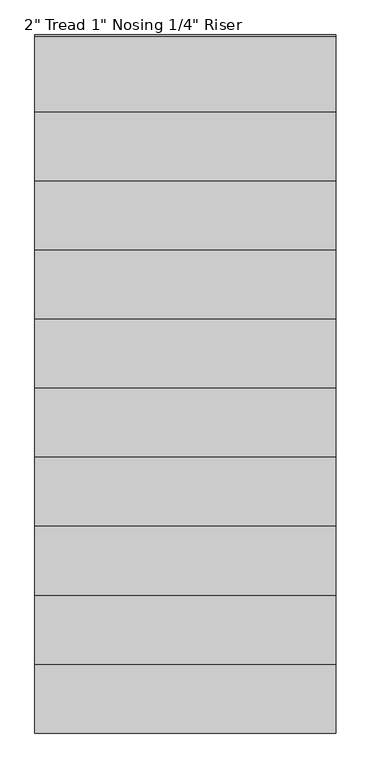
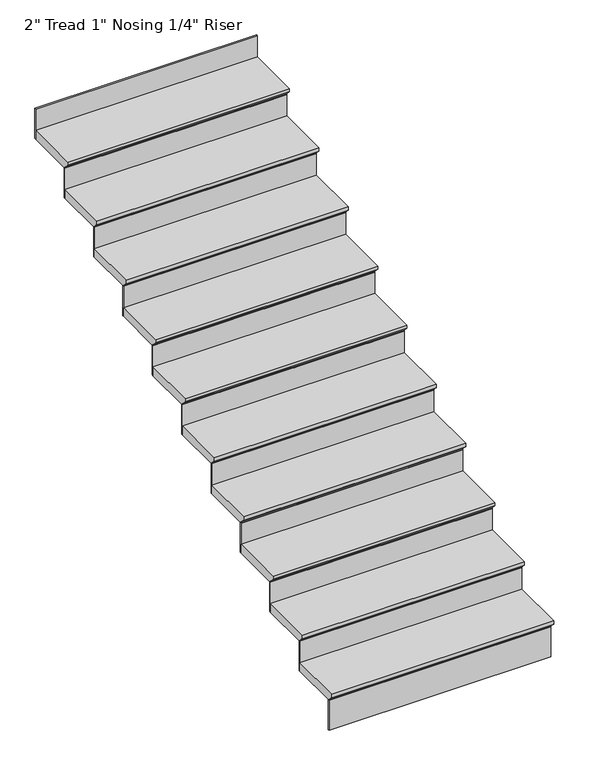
"""IFC4 building model written with IfcOpenShell, lengths in millimetres: stair flight geometry."""

from ifc_helpers import new_model, si_unit, frame, origin, place, context, project, spatial, polyline, outline, extrude, source, transform, mapped, element, save


def stair_flight_eade957a(model_context):
    return source(origin(), model_context, "Body", "SweptSolid", [
        extrude(outline(polyline([(22485.7332157, 1915.8857143), (22790.5332157, 1915.8857143), (22790.5332157, 1865.0857143), (22511.1332157, 1865.0857143), (22511.1332157, 1871.4357143), (22485.7332157, 1896.8357143), (22485.7332157, 1915.8857143)])), frame((30414.1816981, 0.0, 0.0), z_axis=(1.0, 0.0, 0.0), x_axis=(0.0, 1.0, 0.0)), (0.0, 0.0, 1.0), 1219.2),
        extrude(outline(polyline([(31633.3816981, 22517.4832157), (31633.3816981, 22511.1332157), (30414.1816981, 22511.1332157), (30414.1816981, 22517.4832157), (31633.3816981, 22517.4832157)])), frame((0.0, 0.0, 1690.9142857), z_axis=(0.0, 0.0, 1.0), x_axis=(1.0, 0.0, 0.0)), (0.0, 0.0, 1.0), 174.1714286),
        extrude(outline(polyline([(31633.3816981, 22796.8832157), (31633.3816981, 22790.5332157), (30414.1816981, 22790.5332157), (30414.1816981, 22796.8832157), (31633.3816981, 22796.8832157)])), frame((0.0, 0.0, 1865.0857143), z_axis=(0.0, 0.0, 1.0), x_axis=(1.0, 0.0, 0.0)), (0.0, 0.0, 1.0), 174.1714286),
        extrude(outline(polyline([(22765.1332157, 2090.0571429), (23069.9332157, 2090.0571429), (23069.9332157, 2039.2571429), (22790.5332157, 2039.2571429), (22790.5332157, 2045.6071429), (22765.1332157, 2071.0071429), (22765.1332157, 2090.0571429)])), frame((30414.1816981, 0.0, 0.0), z_axis=(1.0, 0.0, 0.0), x_axis=(0.0, 1.0, 0.0)), (0.0, 0.0, 1.0), 1219.2),
        extrude(outline(polyline([(31633.3816981, 23076.2832157), (31633.3816981, 23069.9332157), (30414.1816981, 23069.9332157), (30414.1816981, 23076.2832157), (31633.3816981, 23076.2832157)])), frame((0.0, 0.0, 2039.2571429), z_axis=(0.0, 0.0, 1.0), x_axis=(1.0, 0.0, 0.0)), (0.0, 0.0, 1.0), 174.1714286),
        extrude(outline(polyline([(23044.5332157, 2264.2285714), (23349.3332157, 2264.2285714), (23349.3332157, 2213.4285714), (23069.9332157, 2213.4285714), (23069.9332157, 2219.7785714), (23044.5332157, 2245.1785714), (23044.5332157, 2264.2285714)])), frame((30414.1816981, 0.0, 0.0), z_axis=(1.0, 0.0, 0.0), x_axis=(0.0, 1.0, 0.0)), (0.0, 0.0, 1.0), 1219.2),
        extrude(outline(polyline([(31633.3816981, 23355.6832157), (31633.3816981, 23349.3332157), (30414.1816981, 23349.3332157), (30414.1816981, 23355.6832157), (31633.3816981, 23355.6832157)])), frame((0.0, 0.0, 2213.4285714), z_axis=(0.0, 0.0, 1.0), x_axis=(1.0, 0.0, 0.0)), (0.0, 0.0, 1.0), 174.1714286),
        extrude(outline(polyline([(23323.9332157, 2438.4), (23628.7332157, 2438.4), (23628.7332157, 2387.6), (23349.3332157, 2387.6), (23349.3332157, 2393.95), (23323.9332157, 2419.35), (23323.9332157, 2438.4)])), frame((30414.1816981, 0.0, 0.0), z_axis=(1.0, 0.0, 0.0), x_axis=(0.0, 1.0, 0.0)), (0.0, 0.0, 1.0), 1219.2),
        extrude(outline(polyline([(31633.3816981, 23635.0832157), (31633.3816981, 23628.7332157), (30414.1816981, 23628.7332157), (30414.1816981, 23635.0832157), (31633.3816981, 23635.0832157)])), frame((0.0, 0.0, 2387.6), z_axis=(0.0, 0.0, 1.0), x_axis=(1.0, 0.0, 0.0)), (0.0, 0.0, 1.0), 174.1714286),
        extrude(outline(polyline([(23603.3332157, 2612.5714286), (23908.1332157, 2612.5714286), (23908.1332157, 2561.7714286), (23628.7332157, 2561.7714286), (23628.7332157, 2568.1214286), (23603.3332157, 2593.5214286), (23603.3332157, 2612.5714286)])), frame((30414.1816981, 0.0, 0.0), z_axis=(1.0, 0.0, 0.0), x_axis=(0.0, 1.0, 0.0)), (0.0, 0.0, 1.0), 1219.2),
        extrude(outline(polyline([(31633.3816981, 23914.4832157), (31633.3816981, 23908.1332157), (30414.1816981, 23908.1332157), (30414.1816981, 23914.4832157), (31633.3816981, 23914.4832157)])), frame((0.0, 0.0, 2561.7714286), z_axis=(0.0, 0.0, 1.0), x_axis=(1.0, 0.0, 0.0)), (0.0, 0.0, 1.0), 174.1714286),
        extrude(outline(polyline([(23882.7332157, 2786.7428571), (24187.5332157, 2786.7428571), (24187.5332157, 2735.9428571), (23908.1332157, 2735.9428571), (23908.1332157, 2742.2928571), (23882.7332157, 2767.6928571), (23882.7332157, 2786.7428571)])), frame((30414.1816981, 0.0, 0.0), z_axis=(1.0, 0.0, 0.0), x_axis=(0.0, 1.0, 0.0)), (0.0, 0.0, 1.0), 1219.2),
        extrude(outline(polyline([(31633.3816981, 24193.8832157), (31633.3816981, 24187.5332157), (30414.1816981, 24187.5332157), (30414.1816981, 24193.8832157), (31633.3816981, 24193.8832157)])), frame((0.0, 0.0, 2735.9428571), z_axis=(0.0, 0.0, 1.0), x_axis=(1.0, 0.0, 0.0)), (0.0, 0.0, 1.0), 174.1714286),
        extrude(outline(polyline([(24162.1332157, 2960.9142857), (24466.9332157, 2960.9142857), (24466.9332157, 2910.1142857), (24187.5332157, 2910.1142857), (24187.5332157, 2916.4642857), (24162.1332157, 2941.8642857), (24162.1332157, 2960.9142857)])), frame((30414.1816981, 0.0, 0.0), z_axis=(1.0, 0.0, 0.0), x_axis=(0.0, 1.0, 0.0)), (0.0, 0.0, 1.0), 1219.2),
        extrude(outline(polyline([(31633.3816981, 24473.2832157), (31633.3816981, 24466.9332157), (30414.1816981, 24466.9332157), (30414.1816981, 24473.2832157), (31633.3816981, 24473.2832157)])), frame((0.0, 0.0, 2910.1142857), z_axis=(0.0, 0.0, 1.0), x_axis=(1.0, 0.0, 0.0)), (0.0, 0.0, 1.0), 174.1714286),
        extrude(outline(polyline([(24441.5332157, 3135.0857143), (24746.3332157, 3135.0857143), (24746.3332157, 3084.2857143), (24466.9332157, 3084.2857143), (24466.9332157, 3090.6357143), (24441.5332157, 3116.0357143), (24441.5332157, 3135.0857143)])), frame((30414.1816981, 0.0, 0.0), z_axis=(1.0, 0.0, 0.0), x_axis=(0.0, 1.0, 0.0)), (0.0, 0.0, 1.0), 1219.2),
        extrude(outline(polyline([(31633.3816981, 24752.6832157), (31633.3816981, 24746.3332157), (30414.1816981, 24746.3332157), (30414.1816981, 24752.6832157), (31633.3816981, 24752.6832157)])), frame((0.0, 0.0, 3084.2857143), z_axis=(0.0, 0.0, 1.0), x_axis=(1.0, 0.0, 0.0)), (0.0, 0.0, 1.0), 174.1714286),
        extrude(outline(polyline([(24720.9332157, 3309.2571429), (25025.7332157, 3309.2571429), (25025.7332157, 3258.4571429), (24746.3332157, 3258.4571429), (24746.3332157, 3264.8071429), (24720.9332157, 3290.2071429), (24720.9332157, 3309.2571429)])), frame((30414.1816981, 0.0, 0.0), z_axis=(1.0, 0.0, 0.0), x_axis=(0.0, 1.0, 0.0)), (0.0, 0.0, 1.0), 1219.2),
        extrude(outline(polyline([(31633.3816981, 25032.0832157), (31633.3816981, 25025.7332157), (30414.1816981, 25025.7332157), (30414.1816981, 25032.0832157), (31633.3816981, 25032.0832157)])), frame((0.0, 0.0, 3258.4571429), z_axis=(0.0, 0.0, 1.0), x_axis=(1.0, 0.0, 0.0)), (0.0, 0.0, 1.0), 174.1714286),
        extrude(outline(polyline([(31633.3816981, 25311.4832157), (31633.3816981, 25305.1332157), (30414.1816981, 25305.1332157), (30414.1816981, 25311.4832157), (31633.3816981, 25311.4832157)])), frame((0.0, 0.0, 3432.6285714), z_axis=(0.0, 0.0, 1.0), x_axis=(1.0, 0.0, 0.0)), (0.0, 0.0, 1.0), 174.1714286),
        extrude(outline(polyline([(25000.3332157, 3483.4285714), (25305.1332157, 3483.4285714), (25305.1332157, 3432.6285714), (25025.7332157, 3432.6285714), (25025.7332157, 3438.9785714), (25000.3332157, 3464.3785714), (25000.3332157, 3483.4285714)])), frame((30414.1816981, 0.0, 0.0), z_axis=(1.0, 0.0, 0.0), x_axis=(0.0, 1.0, 0.0)), (0.0, 0.0, 1.0), 1219.2),
    ])


if __name__ == "__main__":
    model = new_model("IFC4")
    model_context = context("Model", 3, world=origin())
    ifc_project = project(units=[si_unit("LENGTHUNIT", "METRE", prefix="MILLI")], contexts=[model_context])
    site = spatial("IfcSite", under=ifc_project)
    building = spatial("IfcBuilding", under=site)
    placement = place(None, origin())
    stair_flight_shape = stair_flight_eade957a(model_context)
    element("IfcStairFlight", 1, ObjectType="2\" Tread 1\" Nosing 1/4\" Riser", at=placement, inside=building, context=model_context, shape_type="MappedRepresentation", body=[
        mapped(stair_flight_shape, transform((0.0, 0.0, 0.0), x_axis=(1.0, 0.0, 0.0), y_axis=(0.0, 1.0, 0.0), z_axis=(0.0, 0.0, 1.0))),
    ])
    save(model, "model.ifc")
